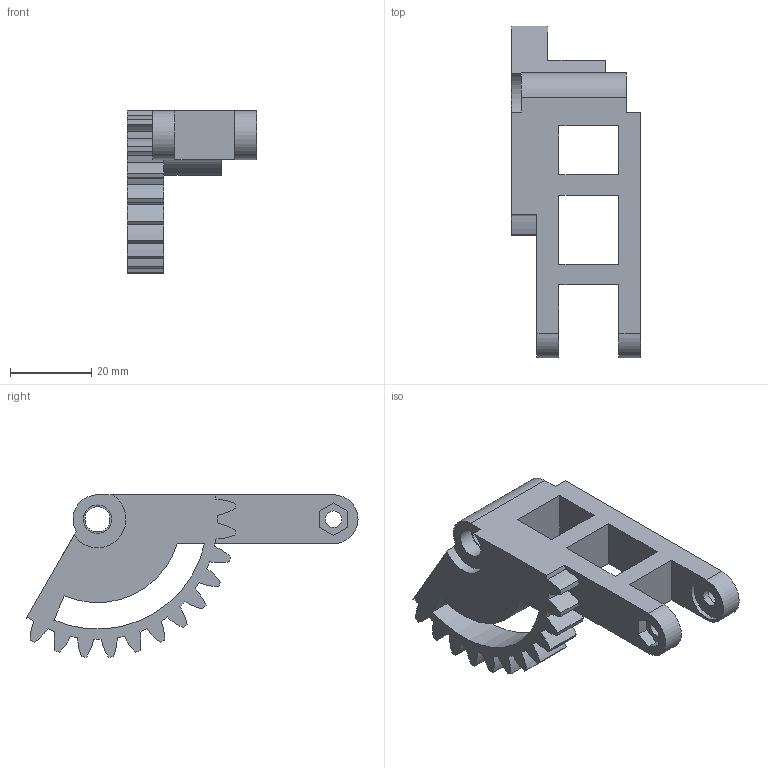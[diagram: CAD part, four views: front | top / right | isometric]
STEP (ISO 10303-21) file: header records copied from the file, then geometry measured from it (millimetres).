
FILE_DESCRIPTION (( 'STEP AP214' ), '1' );
FILE_NAME ('right-drive-gear-and-bearing.step', '2026-11-14T03:54:46', ( '' ), ( '' ), 'SwSTEP 2.0', 'SolidWorks 2024', '' );
FILE_SCHEMA (( 'AUTOMOTIVE_DESIGN' ));
Length unit declared in the file: millimetre
Products named in the file (2): 零件1^gear_right_bearing; right-drive-gear-and-bearing
Assembly tree (1 placements, depth 2):
  right-drive-gear-and-bearing
    零件1^gear_right_bearing
Bounding box: 31.8 x 81.55 x 39.89 mm (x, y, z)
Volume: 19404.5 mm3; surface area: 10695.4 mm2
Topology: 1 solids, 1 shells, 99 faces, 280 edges, 187 vertices
Faces by surface type: cylinder 66, plane 33
Full cylindrical faces by diameter (mm): 4.1 x2, 6.16 x1, 7 x1, 8 x1, 10.5 x2
Entity records: 3302 total; most frequent: DIRECTION 611, CARTESIAN_POINT 559, ORIENTED_EDGE 542, EDGE_CURVE 271, AXIS2_PLACEMENT_3D 237, VERTEX_POINT 185, LINE 137, VECTOR 137
